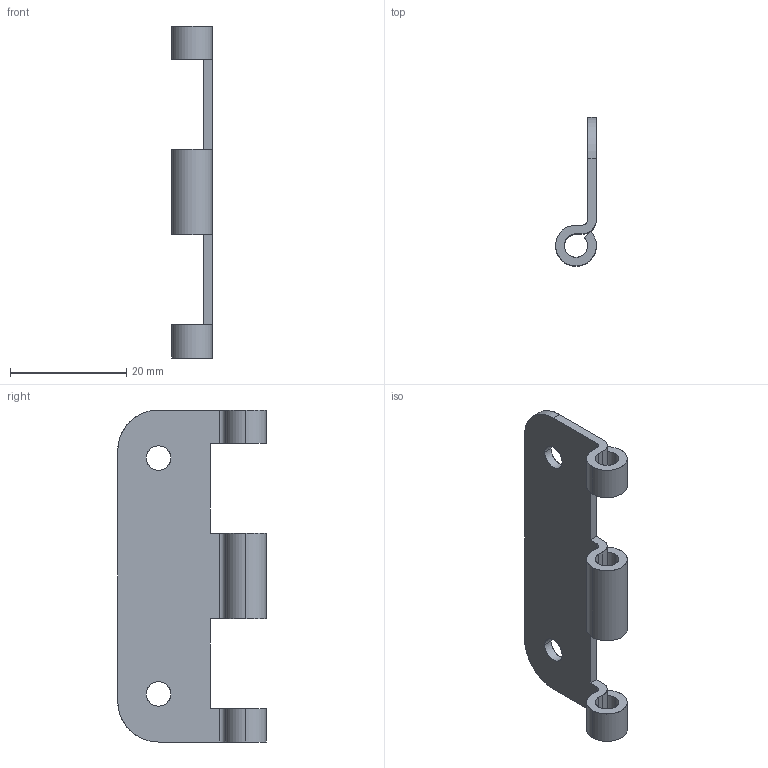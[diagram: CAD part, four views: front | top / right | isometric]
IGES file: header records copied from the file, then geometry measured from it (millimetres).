
Start section: SolidWorks IGES file using analytic representation for surfaces
Global section: file name: Z:\Mes documents\ATAO iges\Gamme CX\CX 421\421.020.00.IGS; native system: SolidWorks 2008; preprocessor: SolidWorks 2008; author: cbrechard; date: 110629.085755; units: millimetre
Bounding box: 7 x 25.5 x 57 mm (x, y, z)
Surface area: 3216.1 mm2 (no closed solid volume)
Topology: 0 solids, 0 shells, 50 faces, 820 edges, 820 vertices
Faces by surface type: revolution 30, bspline 20
